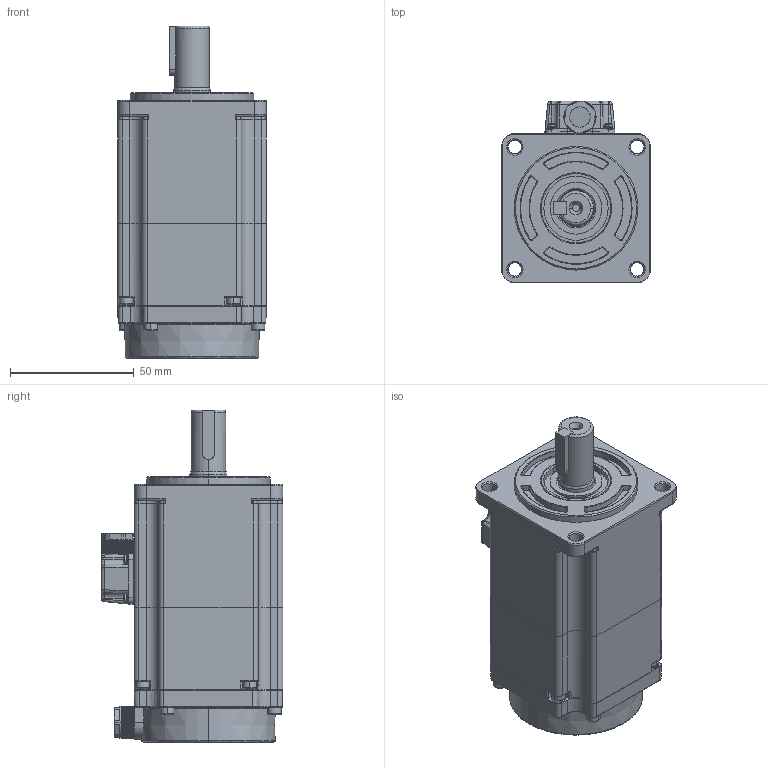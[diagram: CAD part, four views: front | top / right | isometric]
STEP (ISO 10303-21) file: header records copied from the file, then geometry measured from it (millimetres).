
FILE_DESCRIPTION (( 'STEP AP203' ), '1' );
FILE_NAME ('G3系列60ST-200W刹车电机三维图.STEP', '2020-12-08T01:34:21', ( '微软用户' ), ( '微软中国' ), 'SwSTEP 2.0', 'SolidWorks 2016', '' );
FILE_SCHEMA (( 'CONFIG_CONTROL_DESIGN' ));
Products named in the file (1): G3系列60ST-200W刹车电机三维图
Bounding box: 60.2 x 73.5 x 134.3 mm (x, y, z)
Volume: 136345.3 mm3; surface area: 84897.7 mm2
Topology: 21 solids, 21 shells, 3011 faces, 7327 edges, 4459 vertices
Faces by surface type: plane 1630, cylinder 576, cone 489, bspline 167, torus 133, sphere 16
Entity records: 91976 total; most frequent: CARTESIAN_POINT 21601, DIRECTION 14890, ORIENTED_EDGE 14606, EDGE_CURVE 7303, AXIS2_PLACEMENT_3D 5364, VERTEX_POINT 4459, VECTOR 4162, LINE 4162
